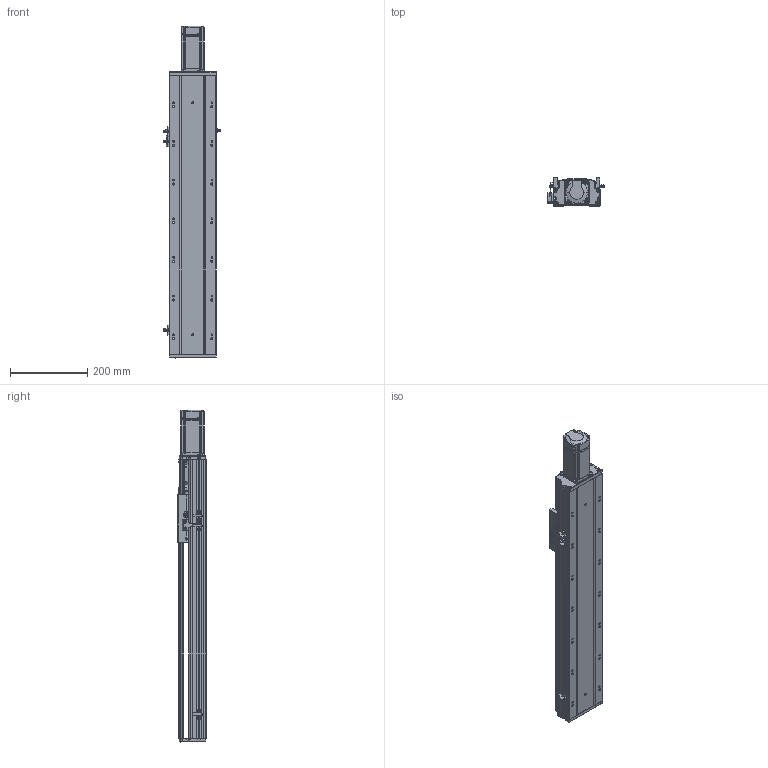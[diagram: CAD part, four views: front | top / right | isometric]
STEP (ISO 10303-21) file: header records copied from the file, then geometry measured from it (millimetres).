
FILE_DESCRIPTION (( 'STEP AP203' ), '1' );
FILE_NAME ('RYK120-L1610-S450-M40-C3-MK.STEP', '2026-03-09T07:43:39', ( '' ), ( '' ), 'SwSTEP 2.0', 'SolidWorks 2016', '' );
FILE_SCHEMA (( 'CONFIG_CONTROL_DESIGN' ));
Length unit declared in the file: millimetre
Products named in the file (17): 侂狟400W侜督萇儂; RYK120-300-MK-菁釱-啞_450; 2.10.1.C521-V1.0RY120臏賑輸16蹟譫-啞-JZZY-NRL-L1899; RY120綴裔啣; RY120外置感应片(140共用）; 滅袉蝶18-24; 滅袉蝶18-10; 15; 44-49-12-14; RYK120-300-MK-奻裔啣-啞_450; RY120-16螺母油路-集中注油组合; RYK170-薊粣ん芵隴裔啣; RY120电机端支撑座-压铸加工-M5; CB╱T 3762-1996[锥形润滑油嘴1-ZM10×1]_1-ZM10×1; RYK120-L1610-S450-M40-C3-MK; RY120QGB-1.8; 覜茼ん672
Assembly tree (21 placements, depth 3):
  RYK120-L1610-S450-M40-C3-MK
    RYK120-300-MK-菁釱-啞_450
    RYK120-300-MK-奻裔啣-啞_450
    RY120綴裔啣
    滅袉蝶18-24  x2
    滅袉蝶18-10  x2
    覜茼ん672  x3
    RY120外置感应片(140共用）
    RY120QGB-1.8
    RY120-16螺母油路-集中注油组合
      2.10.1.C521-V1.0RY120臏賑輸16蹟譫-啞-JZZY-NRL-L1899
      CB╱T 3762-1996[锥形润滑油嘴1-ZM10×1]_1-ZM10×1  x2
    RY120电机端支撑座-压铸加工-M5
    RYK170-薊粣ん芵隴裔啣
    44-49-12-14
    侂狟400W侜督萇儂
      15
Bounding box: 145.7 x 73 x 858.5 mm (x, y, z)
Volume: 2494695.3 mm3; surface area: 837498.7 mm2
Topology: 23 solids, 23 shells, 2554 faces, 7102 edges, 4555 vertices
Faces by surface type: plane 1201, cylinder 983, cone 243, bspline 127
Entity records: 85386 total; most frequent: CARTESIAN_POINT 24772, ORIENTED_EDGE 12752, DIRECTION 11635, EDGE_CURVE 6376, VERTEX_POINT 4167, AXIS2_PLACEMENT_3D 3982, VECTOR 3671, LINE 3671
